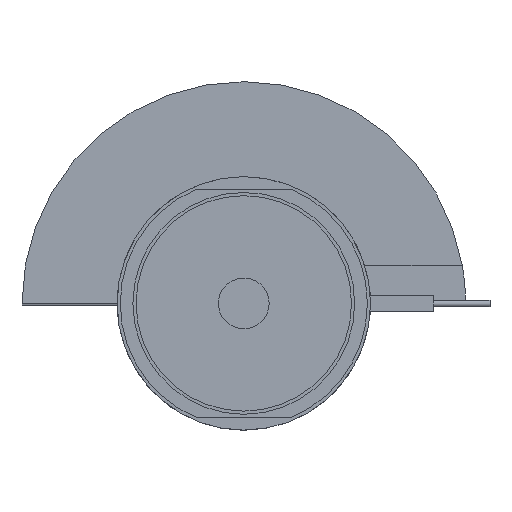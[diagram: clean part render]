
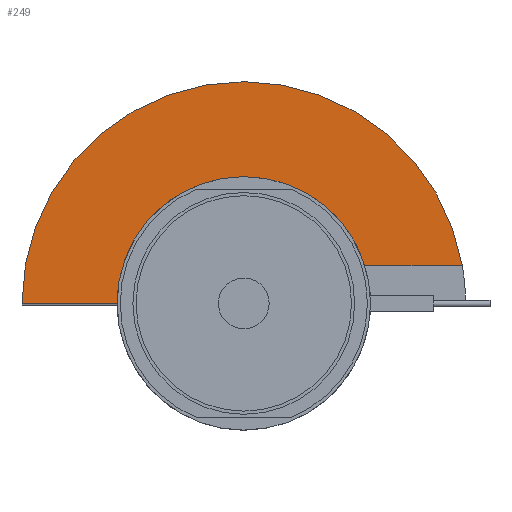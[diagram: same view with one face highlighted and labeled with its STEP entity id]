
A CAD part, top view. The second image highlights one B-rep face of the part: STEP entity #249.
In plain terms, the highlighted planar face has unit normal (0, 0, 1).
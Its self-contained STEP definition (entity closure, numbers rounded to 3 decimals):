
#249=ADVANCED_FACE('',(#372),#307,.F.);
#307=PLANE('',#1703);
#372=FACE_OUTER_BOUND('',#740,.T.);
#448=LINE('',#2692,#521);
#451=LINE('',#2700,#524);
#521=VECTOR('',#2111,1.);
#524=VECTOR('',#2118,1.);
#740=EDGE_LOOP('',(#1021,#1022,#1023,#1024));
#1021=ORIENTED_EDGE('',*,*,#1405,.F.);
#1022=ORIENTED_EDGE('',*,*,#1406,.T.);
#1023=ORIENTED_EDGE('',*,*,#1407,.F.);
#1024=ORIENTED_EDGE('',*,*,#1402,.F.);
#1241=VERTEX_POINT('',#2691);
#1242=VERTEX_POINT('',#2693);
#1244=VERTEX_POINT('',#2699);
#1245=VERTEX_POINT('',#2701);
#1402=EDGE_CURVE('',#1241,#1242,#448,.T.);
#1405=EDGE_CURVE('',#1244,#1241,#1520,.T.);
#1406=EDGE_CURVE('',#1244,#1245,#451,.T.);
#1407=EDGE_CURVE('',#1242,#1245,#1521,.T.);
#1520=CIRCLE('',#1701,20.);
#1521=CIRCLE('',#1702,35.);
#1701=AXIS2_PLACEMENT_3D('',#2698,#2116,#2117);
#1702=AXIS2_PLACEMENT_3D('',#2702,#2119,#2120);
#1703=AXIS2_PLACEMENT_3D('',#2703,#2121,#2122);
#2111=DIRECTION('',(-1.,0.,0.));
#2116=DIRECTION('',(0.,0.,1.));
#2117=DIRECTION('',(-1.,0.,0.));
#2118=DIRECTION('',(1.,0.,0.));
#2119=DIRECTION('',(0.,0.,-1.));
#2120=DIRECTION('',(-1.,0.,0.));
#2121=DIRECTION('',(0.,0.,-1.));
#2122=DIRECTION('',(-1.,0.,0.));
#2691=CARTESIAN_POINT('',(-20.,0.,-13.));
#2692=CARTESIAN_POINT('',(0.,0.,-13.));
#2693=CARTESIAN_POINT('',(-35.,0.,-13.));
#2698=CARTESIAN_POINT('',(0.,0.,-13.));
#2699=CARTESIAN_POINT('',(19.079,6.,-13.));
#2700=CARTESIAN_POINT('',(50.,6.,-13.));
#2701=CARTESIAN_POINT('',(34.482,6.,-13.));
#2702=CARTESIAN_POINT('',(0.,0.,-13.));
#2703=CARTESIAN_POINT('',(0.,0.,-13.));
